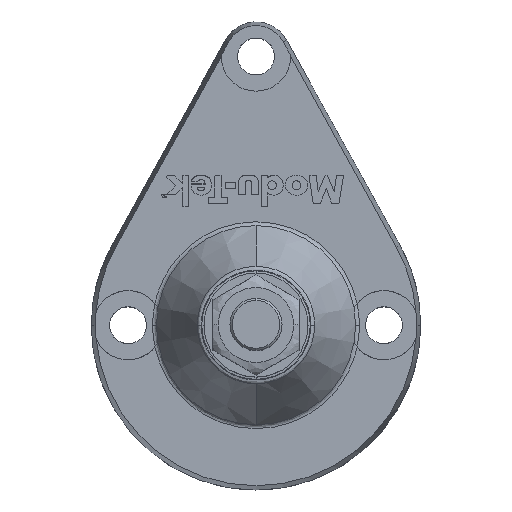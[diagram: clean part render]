
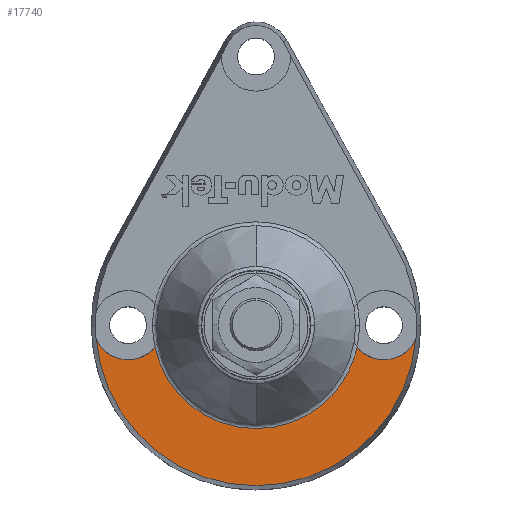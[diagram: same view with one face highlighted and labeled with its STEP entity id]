
A CAD part, top view. The second image highlights one B-rep face of the part: STEP entity #17740.
In plain terms, the highlighted planar face has unit normal (0, 0, 1).
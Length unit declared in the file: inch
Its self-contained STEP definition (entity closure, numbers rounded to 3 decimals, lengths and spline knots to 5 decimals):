
#626 = CARTESIAN_POINT ( 'NONE',  ( -0.438, 4.11643, 0.9995 ) ) ;
#947 = VERTEX_POINT ( 'NONE', #1431 ) ;
#1048 = CARTESIAN_POINT ( 'NONE',  ( -1.4574, -0.31586, 0.9995 ) ) ;
#1431 = CARTESIAN_POINT ( 'NONE',  ( -2.30698, -0.19124, 0.9995 ) ) ;
#3373 = EDGE_CURVE ( 'NONE', #38980, #947, #26831, .T. ) ;
#3461 = EDGE_CURVE ( 'NONE', #41541, #32646, #19594, .T. ) ;
#4079 = PLANE ( 'NONE',  #27075 ) ;
#4259 = DIRECTION ( 'NONE',  ( -1., 0., 0. ) ) ;
#6934 = AXIS2_PLACEMENT_3D ( 'NONE', #41027, #19317, #44728 ) ;
#7365 = EDGE_LOOP ( 'NONE', ( #16606, #29619, #44893, #30569 ) ) ;
#8034 = DIRECTION ( 'NONE',  ( 0., 0., -1. ) ) ;
#10727 = AXIS2_PLACEMENT_3D ( 'NONE', #29763, #8034, #33379 ) ;
#16606 = ORIENTED_EDGE ( 'NONE', *, *, #3461, .F. ) ;
#17740 = ADVANCED_FACE ( 'NONE', ( #18900 ), #4079, .F. ) ;
#18109 = CARTESIAN_POINT ( 'NONE',  ( 1.4574, -0.31586, 0.9995 ) ) ;
#18499 = CARTESIAN_POINT ( 'NONE',  ( -1.4574, -0.31586, 0.9995 ) ) ;
#18900 = FACE_OUTER_BOUND ( 'NONE', #7365, .T. ) ;
#19290 = CARTESIAN_POINT ( 'NONE',  ( 1.02373, -2.31686, 0.9995 ) ) ;
#19317 = DIRECTION ( 'NONE',  ( 0., 0., -1. ) ) ;
#19594 =( BOUNDED_CURVE ( )  B_SPLINE_CURVE ( 3, ( #1048, #40997, #19290, #44700 ),
 .UNSPECIFIED., .F., .F. ) 
 B_SPLINE_CURVE_WITH_KNOTS ( ( 4, 4 ),
 ( 0., 1. ),
 .UNSPECIFIED. ) 
 CURVE ( )  GEOMETRIC_REPRESENTATION_ITEM ( )  RATIONAL_B_SPLINE_CURVE ( ( 1., 0.475, 0.475, 1. ) ) 
 REPRESENTATION_ITEM ( '' )  );
#20434 = CARTESIAN_POINT ( 'NONE',  ( 1.845, 0., 0.9995 ) ) ;
#22859 = EDGE_CURVE ( 'NONE', #38980, #32646, #31326, .T. ) ;
#24007 = DIRECTION ( 'NONE',  ( 1., 0., 0. ) ) ;
#24235 = CARTESIAN_POINT ( 'NONE',  ( 2.30698, -0.19124, 0.9995 ) ) ;
#25999 = DIRECTION ( 'NONE',  ( 0., 0., -1. ) ) ;
#26831 = CIRCLE ( 'NONE', #10727, 2.3149 ) ;
#27075 = AXIS2_PLACEMENT_3D ( 'NONE', #626, #25999, #4259 ) ;
#29619 = ORIENTED_EDGE ( 'NONE', *, *, #33393, .T. ) ;
#29763 = CARTESIAN_POINT ( 'NONE',  ( 0., 0., 0.9995 ) ) ;
#30569 = ORIENTED_EDGE ( 'NONE', *, *, #22859, .T. ) ;
#31072 = AXIS2_PLACEMENT_3D ( 'NONE', #20434, #45799, #24007 ) ;
#31326 = CIRCLE ( 'NONE', #31072, 0.5 ) ;
#32646 = VERTEX_POINT ( 'NONE', #18109 ) ;
#33379 = DIRECTION ( 'NONE',  ( -1., 0., 0. ) ) ;
#33393 = EDGE_CURVE ( 'NONE', #41541, #947, #43259, .T. ) ;
#38980 = VERTEX_POINT ( 'NONE', #24235 ) ;
#40997 = CARTESIAN_POINT ( 'NONE',  ( -1.02373, -2.31686, 0.9995 ) ) ;
#41027 = CARTESIAN_POINT ( 'NONE',  ( -1.845, 0., 0.9995 ) ) ;
#41541 = VERTEX_POINT ( 'NONE', #18499 ) ;
#43259 = CIRCLE ( 'NONE', #6934, 0.5 ) ;
#44700 = CARTESIAN_POINT ( 'NONE',  ( 1.4574, -0.31586, 0.9995 ) ) ;
#44728 = DIRECTION ( 'NONE',  ( 1., 0., 0. ) ) ;
#44893 = ORIENTED_EDGE ( 'NONE', *, *, #3373, .F. ) ;
#45799 = DIRECTION ( 'NONE',  ( 0., 0., -1. ) ) ;
